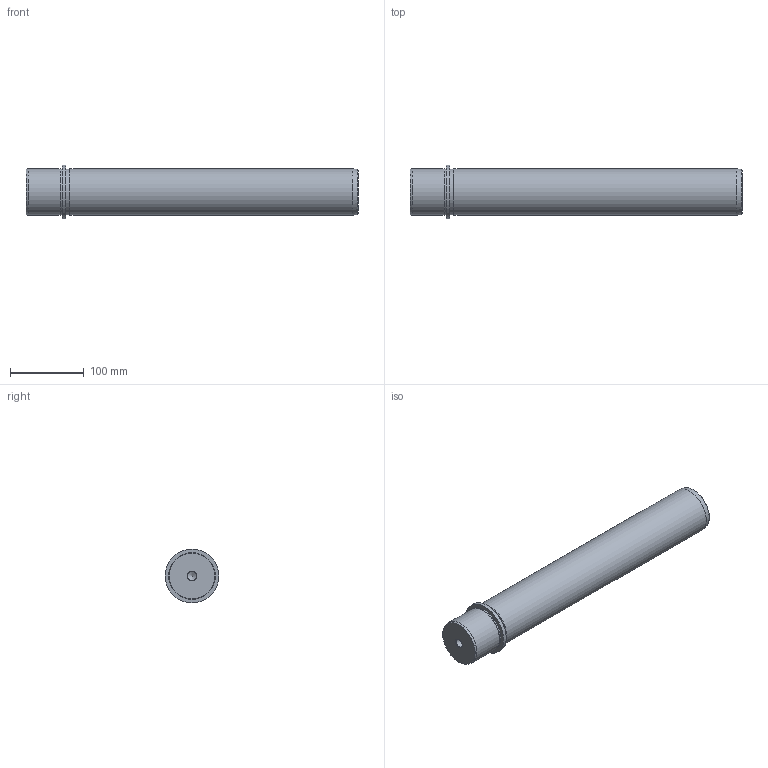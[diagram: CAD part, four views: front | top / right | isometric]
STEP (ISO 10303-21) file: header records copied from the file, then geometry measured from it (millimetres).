
FILE_DESCRIPTION(/* description */ ('Impex Ready, www.impex-ready.pl'),/* implementation_level */ '2;1');
FILE_NAME(/* name */ 'C:\Users\VIKKY\Nextcloud\SM\projekt 10 - części na stronę internetową\Pliki_3D_new\292 Słupy CE\292_CE_STEP\CE63400.ipt.step',/* time_stamp */ '2021-12-17T13:45:07+01:00',/* author */ ('SM'),/* organization */ (''),/* preprocessor_version */ 'ST-DEVELOPER v18.1',/* originating_system */ 'Autodesk Inventor 2021',/* authorisation */ '');
FILE_SCHEMA (('AUTOMOTIVE_DESIGN { 1 0 10303 214 3 1 1 }'));
Length unit declared in the file: millimetre
Products named in the file (1): CE63400
Bounding box: 449 x 73 x 73 mm (x, y, z)
Volume: 1400206.7 mm3; surface area: 98244.8 mm2
Topology: 1 solids, 1 shells, 17 faces, 31 edges, 18 vertices
Faces by surface type: cone 6, cylinder 6, plane 4, torus 1
Full cylindrical faces by diameter (mm): 12 x1, 62 x2, 63 x2, 73 x1
Entity records: 508 total; most frequent: DIRECTION 84, CARTESIAN_POINT 66, ORIENTED_EDGE 60, AXIS2_PLACEMENT_3D 36, EDGE_CURVE 30, EDGE_LOOP 20, CIRCLE 18, VERTEX_POINT 18
